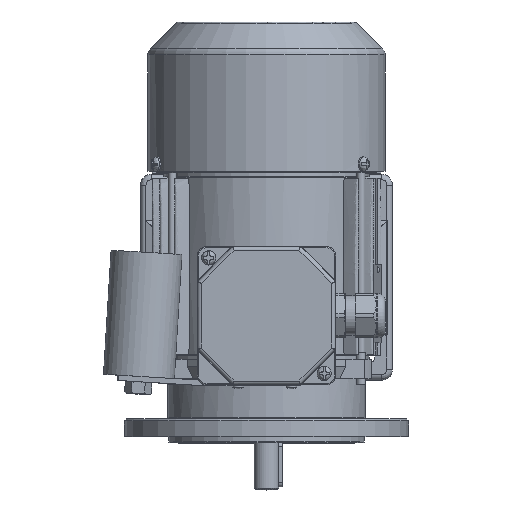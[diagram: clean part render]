
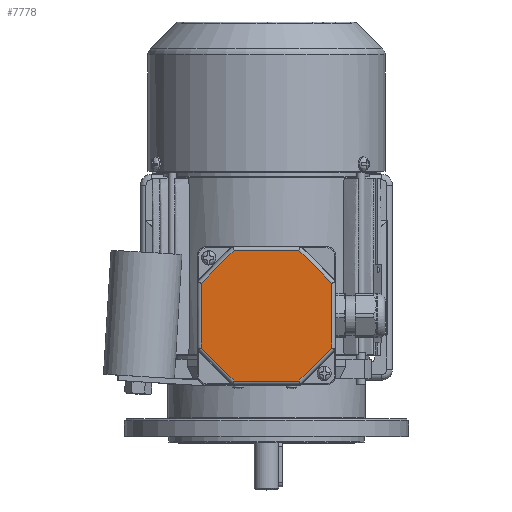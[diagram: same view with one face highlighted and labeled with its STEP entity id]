
A CAD part, top view. The second image highlights one B-rep face of the part: STEP entity #7778.
In plain terms, the highlighted planar face has unit normal (0, 0, 1).
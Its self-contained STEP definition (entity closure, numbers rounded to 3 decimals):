
#7778 = ADVANCED_FACE( '', ( #15621 ), #15622, .T. );
#15621 = FACE_OUTER_BOUND( '', #57809, .T. );
#15622 = PLANE( '', #57810 );
#57809 = EDGE_LOOP( '', ( #79990, #79991, #79992, #79993, #79994, #79995, #79996, #79997 ) );
#57810 = AXIS2_PLACEMENT_3D( '', #79998, #79999, #80000 );
#79990 = ORIENTED_EDGE( '', *, *, #88950, .T. );
#79991 = ORIENTED_EDGE( '', *, *, #88141, .T. );
#79992 = ORIENTED_EDGE( '', *, *, #86893, .T. );
#79993 = ORIENTED_EDGE( '', *, *, #86547, .T. );
#79994 = ORIENTED_EDGE( '', *, *, #88995, .T. );
#79995 = ORIENTED_EDGE( '', *, *, #85293, .T. );
#79996 = ORIENTED_EDGE( '', *, *, #84805, .T. );
#79997 = ORIENTED_EDGE( '', *, *, #89814, .T. );
#79998 = CARTESIAN_POINT( '', ( -39., 39., 12. ) );
#79999 = DIRECTION( '', ( 0., 0., 1. ) );
#80000 = DIRECTION( '', ( 1., 0., 0. ) );
#84805 = EDGE_CURVE( '', #96005, #92688, #96006, .F. );
#85293 = EDGE_CURVE( '', #96759, #96005, #96760, .T. );
#86547 = EDGE_CURVE( '', #98655, #98656, #98657, .T. );
#86893 = EDGE_CURVE( '', #99121, #98655, #99122, .F. );
#88141 = EDGE_CURVE( '', #100708, #99121, #100709, .T. );
#88950 = EDGE_CURVE( '', #101666, #100708, #101667, .F. );
#88995 = EDGE_CURVE( '', #98656, #96759, #101717, .F. );
#89814 = EDGE_CURVE( '', #92688, #101666, #102580, .T. );
#92688 = VERTEX_POINT( '', #109900 );
#96005 = VERTEX_POINT( '', #121789 );
#96006 = LINE( '', #121790, #121791 );
#96759 = VERTEX_POINT( '', #124140 );
#96760 = LINE( '', #124141, #124142 );
#98655 = VERTEX_POINT( '', #129286 );
#98656 = VERTEX_POINT( '', #129287 );
#98657 = LINE( '', #129288, #129289 );
#99121 = VERTEX_POINT( '', #131136 );
#99122 = LINE( '', #131137, #131138 );
#100708 = VERTEX_POINT( '', #137655 );
#100709 = LINE( '', #137656, #137657 );
#101666 = VERTEX_POINT( '', #141972 );
#101667 = LINE( '', #141973, #141974 );
#101717 = LINE( '', #142124, #142125 );
#102580 = LINE( '', #144599, #144600 );
#109900 = CARTESIAN_POINT( '', ( 18.255, -36.825, 12. ) );
#121789 = CARTESIAN_POINT( '', ( -18.255, -36.825, 12. ) );
#121790 = CARTESIAN_POINT( '', ( 19.069, -36.825, 12. ) );
#121791 = VECTOR( '', #149243, 1000. );
#124140 = CARTESIAN_POINT( '', ( -36.825, -18.255, 12. ) );
#124141 = CARTESIAN_POINT( '', ( -17.679, -37.401, 12. ) );
#124142 = VECTOR( '', #149749, 1000. );
#129286 = CARTESIAN_POINT( '', ( -18.255, 36.825, 12. ) );
#129287 = CARTESIAN_POINT( '', ( -36.825, 18.255, 12. ) );
#129288 = CARTESIAN_POINT( '', ( -37.401, 17.679, 12. ) );
#129289 = VECTOR( '', #151457, 1000. );
#131136 = CARTESIAN_POINT( '', ( 18.255, 36.825, 12. ) );
#131137 = CARTESIAN_POINT( '', ( -19.069, 36.825, 12. ) );
#131138 = VECTOR( '', #151815, 1000. );
#137655 = CARTESIAN_POINT( '', ( 36.825, 18.255, 12. ) );
#137656 = CARTESIAN_POINT( '', ( 17.679, 37.401, 12. ) );
#137657 = VECTOR( '', #152935, 1000. );
#141972 = CARTESIAN_POINT( '', ( 36.825, -18.255, 12. ) );
#141973 = CARTESIAN_POINT( '', ( 36.825, 19.069, 12. ) );
#141974 = VECTOR( '', #153603, 1000. );
#142124 = CARTESIAN_POINT( '', ( -36.825, -19.069, 12. ) );
#142125 = VECTOR( '', #153641, 1000. );
#144599 = CARTESIAN_POINT( '', ( 37.401, -17.679, 12. ) );
#144600 = VECTOR( '', #154071, 1000. );
#149243 = DIRECTION( '', ( -1., 0., 0. ) );
#149749 = DIRECTION( '', ( 0.707, -0.707, 0. ) );
#151457 = DIRECTION( '', ( -0.707, -0.707, 0. ) );
#151815 = DIRECTION( '', ( 1., 0., 0. ) );
#152935 = DIRECTION( '', ( -0.707, 0.707, 0. ) );
#153603 = DIRECTION( '', ( 0., -1., 0. ) );
#153641 = DIRECTION( '', ( 0., 1., 0. ) );
#154071 = DIRECTION( '', ( 0.707, 0.707, 0. ) );
